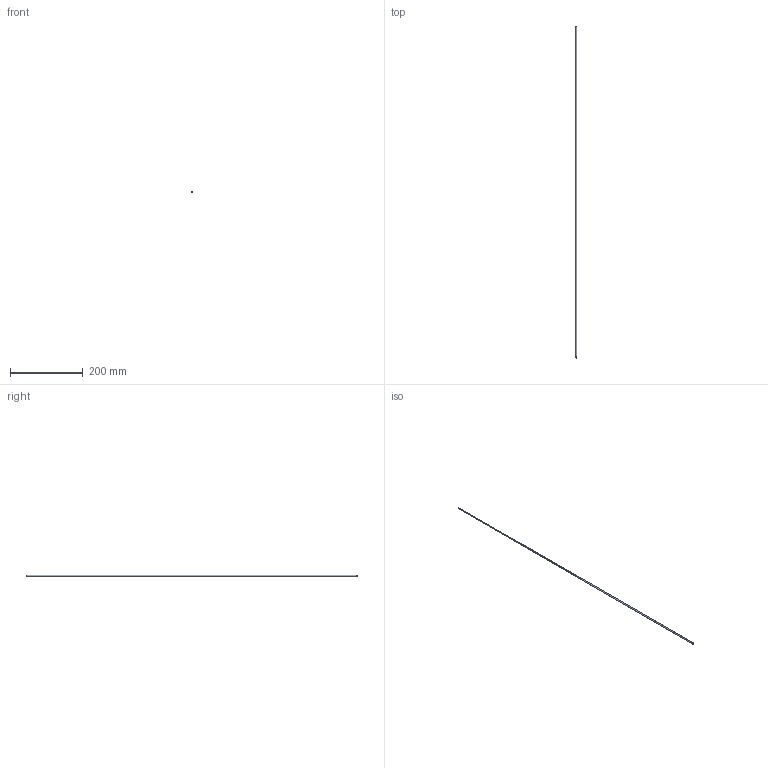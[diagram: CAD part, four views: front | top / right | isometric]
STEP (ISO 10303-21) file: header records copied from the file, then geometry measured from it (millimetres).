
FILE_DESCRIPTION(/* description */ (''),/* implementation_level */ '2;1');
FILE_NAME(/* name */ 'C:/Users/drich/Desktop/HF125T-36 v1.step',/* time_stamp */ '2019-12-30T13:33:56-06:00',/* author */ (''),/* organization */ (''),/* preprocessor_version */ 'ST-DEVELOPER v18',/* originating_system */ 'Autodesk Translation Framework v8.12.0.6',/* authorisation */ '');
FILE_SCHEMA (('AUTOMOTIVE_DESIGN { 1 0 10303 214 3 1 1 }'));
Length unit declared in the file: inch
Products named in the file (1): HF125T-36
Bounding box: 4.8 x 914.4 x 4.8 mm (x, y, z)
Volume: 1784.7 mm3; surface area: 17119.5 mm2
Topology: 1 solids, 1 shells, 11 faces, 27 edges, 20 vertices
Faces by surface type: cylinder 4, plane 4, torus 2, cone 1
Full cylindrical faces by diameter (mm): 2.769 x1, 3.175 x1, 4.727 x1, 4.801 x1
Entity records: 390 total; most frequent: DIRECTION 73, CARTESIAN_POINT 59, ORIENTED_EDGE 54, AXIS2_PLACEMENT_3D 34, EDGE_CURVE 27, CIRCLE 22, VERTEX_POINT 20, EDGE_LOOP 15
